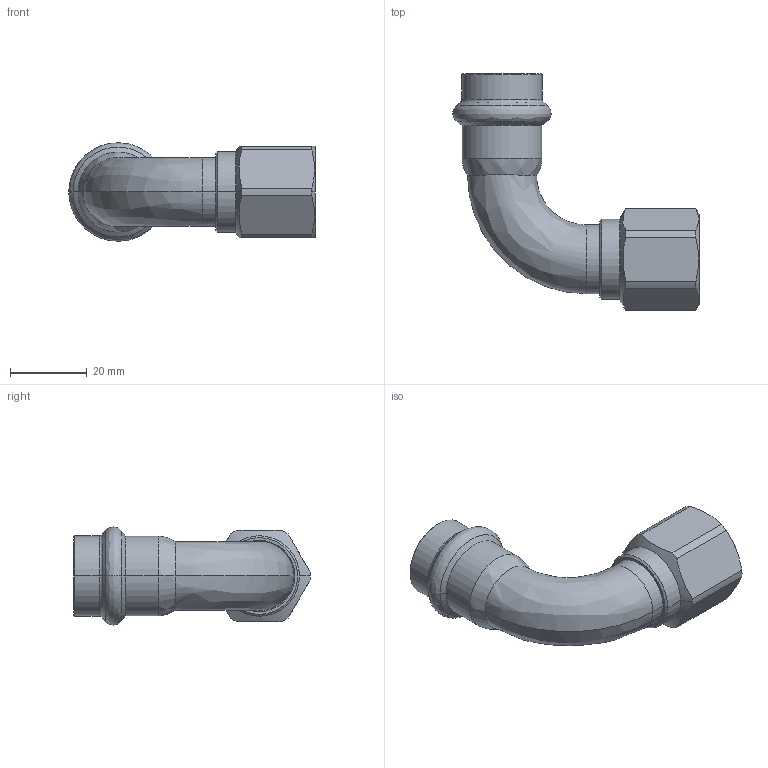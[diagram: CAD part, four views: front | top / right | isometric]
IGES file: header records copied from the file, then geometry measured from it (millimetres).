
Start section: Elysium IGES Interface
Global section: file name: C:\3d modellen sudo\C-Pr VP\SP8090GV\8090GVW1812.igs; native system: CoCreate Modeling 17.00A  17-Jun-2010; preprocessor: CoCreate IGES_3D V2.2; author: Unknown; organization: Unknown; date: 20130305.113502; units: millimetre
Bounding box: 64.35 x 61.73 x 25.68 mm (x, y, z)
Volume: 10908.9 mm3; surface area: 11574.8 mm2
Topology: 1 solids, 1 shells, 82 faces, 178 edges, 102 vertices
Faces by surface type: bspline 82
